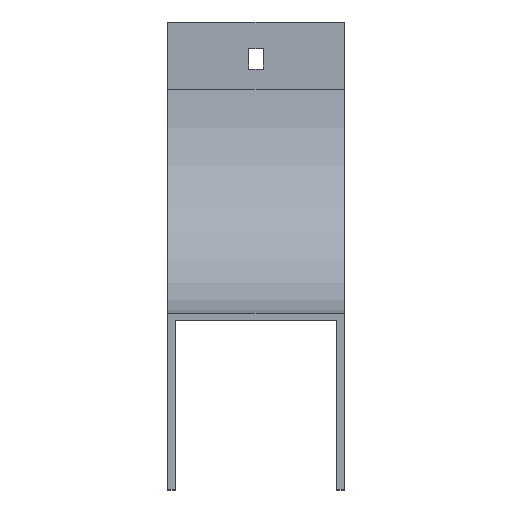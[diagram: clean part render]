
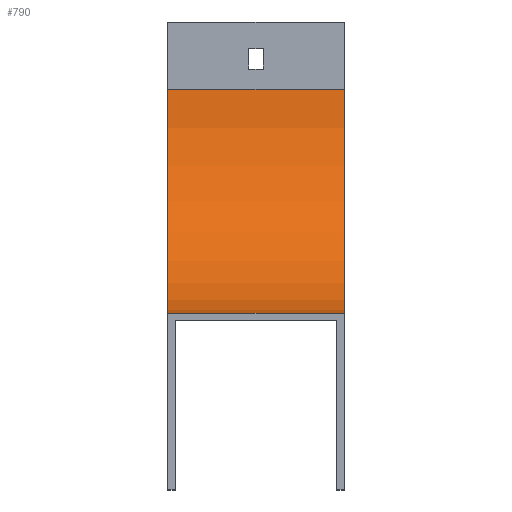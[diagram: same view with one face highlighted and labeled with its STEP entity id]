
A CAD part, front view. The second image highlights one B-rep face of the part: STEP entity #790.
In plain terms, the highlighted cylindrical face has radius 100 mm (diameter 200 mm), a partial arc.
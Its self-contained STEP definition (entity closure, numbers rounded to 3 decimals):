
#6 = EDGE_CURVE ( 'NONE', #1846, #1059, #95, .T. ) ;
#54 = CIRCLE ( 'NONE', #1741, 100. ) ;
#70 = DIRECTION ( 'NONE',  ( -1., 0., 0. ) ) ;
#95 = LINE ( 'NONE', #1590, #1503 ) ;
#132 = ORIENTED_EDGE ( 'NONE', *, *, #6, .T. ) ;
#199 = CARTESIAN_POINT ( 'NONE',  ( -39.5, 0., -30. ) ) ;
#293 = ORIENTED_EDGE ( 'NONE', *, *, #581, .F. ) ;
#299 = CYLINDRICAL_SURFACE ( 'NONE', #453, 100. ) ;
#453 = AXIS2_PLACEMENT_3D ( 'NONE', #1772, #736, #1339 ) ;
#498 = CARTESIAN_POINT ( 'NONE',  ( 39.5, -100., -30. ) ) ;
#515 = CARTESIAN_POINT ( 'NONE',  ( 39.5, 0., -30. ) ) ;
#581 = EDGE_CURVE ( 'NONE', #763, #991, #811, .T. ) ;
#666 = DIRECTION ( 'NONE',  ( -1., 0., 0. ) ) ;
#736 = DIRECTION ( 'NONE',  ( -1., 0., 0. ) ) ;
#763 = VERTEX_POINT ( 'NONE', #1648 ) ;
#790 = ADVANCED_FACE ( 'NONE', ( #1168 ), #299, .F. ) ;
#811 = LINE ( 'NONE', #1869, #1573 ) ;
#868 = EDGE_CURVE ( 'NONE', #1846, #763, #893, .T. ) ;
#893 = CIRCLE ( 'NONE', #1605, 100. ) ;
#948 = EDGE_LOOP ( 'NONE', ( #1146, #293, #1128, #132 ) ) ;
#980 = CARTESIAN_POINT ( 'NONE',  ( -39.5, -100., -30. ) ) ;
#991 = VERTEX_POINT ( 'NONE', #1174 ) ;
#1059 = VERTEX_POINT ( 'NONE', #199 ) ;
#1123 = DIRECTION ( 'NONE',  ( 0., 0., 1. ) ) ;
#1128 = ORIENTED_EDGE ( 'NONE', *, *, #868, .F. ) ;
#1146 = ORIENTED_EDGE ( 'NONE', *, *, #1794, .T. ) ;
#1168 = FACE_OUTER_BOUND ( 'NONE', #948, .T. ) ;
#1174 = CARTESIAN_POINT ( 'NONE',  ( -39.5, -100., -130. ) ) ;
#1294 = DIRECTION ( 'NONE',  ( -1., 0., 0. ) ) ;
#1339 = DIRECTION ( 'NONE',  ( 0., 0., 1. ) ) ;
#1399 = DIRECTION ( 'NONE',  ( -1., 0., 0. ) ) ;
#1503 = VECTOR ( 'NONE', #1294, 1000. ) ;
#1573 = VECTOR ( 'NONE', #666, 1000. ) ;
#1590 = CARTESIAN_POINT ( 'NONE',  ( 39.5, 0., -30. ) ) ;
#1605 = AXIS2_PLACEMENT_3D ( 'NONE', #498, #70, #1856 ) ;
#1648 = CARTESIAN_POINT ( 'NONE',  ( 39.5, -100., -130. ) ) ;
#1741 = AXIS2_PLACEMENT_3D ( 'NONE', #980, #1399, #1123 ) ;
#1772 = CARTESIAN_POINT ( 'NONE',  ( 39.5, -100., -30. ) ) ;
#1794 = EDGE_CURVE ( 'NONE', #1059, #991, #54, .T. ) ;
#1846 = VERTEX_POINT ( 'NONE', #515 ) ;
#1856 = DIRECTION ( 'NONE',  ( 0., 0., 1. ) ) ;
#1869 = CARTESIAN_POINT ( 'NONE',  ( 39.5, -100., -130. ) ) ;
